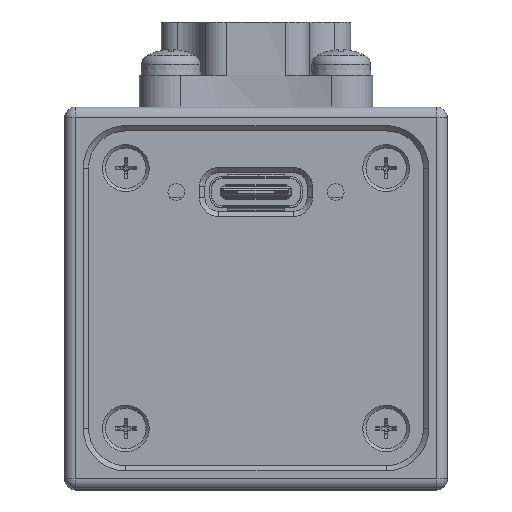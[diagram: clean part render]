
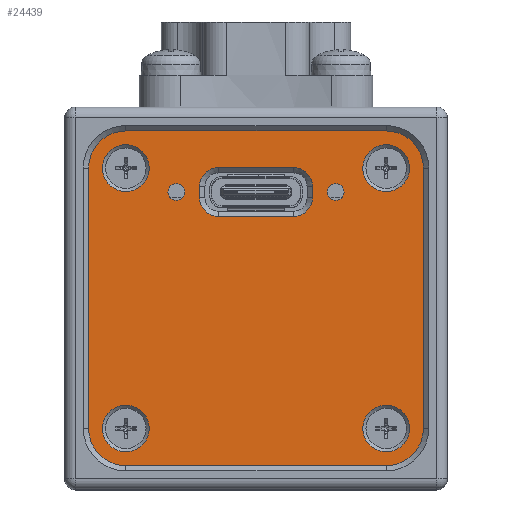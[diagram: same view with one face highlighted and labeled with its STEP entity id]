
A CAD part, top view. The second image highlights one B-rep face of the part: STEP entity #24439.
In plain terms, the highlighted planar face has unit normal (0, 0, 1).
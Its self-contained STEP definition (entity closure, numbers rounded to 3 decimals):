
#366=LINE('',#35747,#2871);
#371=LINE('',#35761,#2876);
#375=LINE('',#35773,#2880);
#379=LINE('',#35785,#2884);
#388=LINE('',#35811,#2893);
#389=LINE('',#35815,#2894);
#390=LINE('',#35819,#2895);
#391=LINE('',#35823,#2896);
#2871=VECTOR('',#28667,10.);
#2876=VECTOR('',#28680,10.);
#2880=VECTOR('',#28692,10.);
#2884=VECTOR('',#28704,10.);
#2893=VECTOR('',#28733,10.);
#2894=VECTOR('',#28736,10.);
#2895=VECTOR('',#28739,10.);
#2896=VECTOR('',#28742,10.);
#5710=FACE_BOUND('',#7418,.T.);
#5711=FACE_BOUND('',#7419,.T.);
#5712=FACE_BOUND('',#7420,.T.);
#5713=FACE_BOUND('',#7421,.T.);
#5714=FACE_BOUND('',#7422,.T.);
#5715=FACE_BOUND('',#7423,.T.);
#5716=FACE_BOUND('',#7424,.T.);
#6042=FACE_OUTER_BOUND('',#7417,.T.);
#7417=EDGE_LOOP('',(#15947,#15948,#15949,#15950,#15951,#15952,#15953,#15954));
#7418=EDGE_LOOP('',(#15955));
#7419=EDGE_LOOP('',(#15956));
#7420=EDGE_LOOP('',(#15957));
#7421=EDGE_LOOP('',(#15958));
#7422=EDGE_LOOP('',(#15959));
#7423=EDGE_LOOP('',(#15960));
#7424=EDGE_LOOP('',(#15961,#15962,#15963,#15964,#15965,#15966,#15967,#15968));
#8906=CIRCLE('',#26048,1.75);
#8908=CIRCLE('',#26052,1.75);
#8910=CIRCLE('',#26056,1.75);
#8912=CIRCLE('',#26060,1.75);
#8915=CIRCLE('',#26068,3.5);
#8916=CIRCLE('',#26069,3.5);
#8917=CIRCLE('',#26070,3.5);
#8918=CIRCLE('',#26071,3.5);
#8919=CIRCLE('',#26072,0.784);
#8920=CIRCLE('',#26073,0.784);
#8921=CIRCLE('',#26074,2.2);
#8922=CIRCLE('',#26075,2.2);
#8923=CIRCLE('',#26076,2.2);
#8924=CIRCLE('',#26077,2.2);
#9794=VERTEX_POINT('',#35744);
#9795=VERTEX_POINT('',#35746);
#9798=VERTEX_POINT('',#35754);
#9800=VERTEX_POINT('',#35759);
#9802=VERTEX_POINT('',#35766);
#9804=VERTEX_POINT('',#35771);
#9806=VERTEX_POINT('',#35778);
#9808=VERTEX_POINT('',#35783);
#9814=VERTEX_POINT('',#35809);
#9815=VERTEX_POINT('',#35810);
#9816=VERTEX_POINT('',#35812);
#9817=VERTEX_POINT('',#35814);
#9818=VERTEX_POINT('',#35816);
#9819=VERTEX_POINT('',#35818);
#9820=VERTEX_POINT('',#35820);
#9821=VERTEX_POINT('',#35822);
#9822=VERTEX_POINT('',#35825);
#9823=VERTEX_POINT('',#35827);
#9824=VERTEX_POINT('',#35829);
#9825=VERTEX_POINT('',#35831);
#9826=VERTEX_POINT('',#35833);
#9827=VERTEX_POINT('',#35835);
#12171=EDGE_CURVE('',#9794,#9795,#366,.T.);
#12176=EDGE_CURVE('',#9798,#9794,#8906,.T.);
#12178=EDGE_CURVE('',#9800,#9798,#371,.T.);
#12182=EDGE_CURVE('',#9802,#9800,#8908,.T.);
#12184=EDGE_CURVE('',#9804,#9802,#375,.T.);
#12188=EDGE_CURVE('',#9806,#9804,#8910,.T.);
#12190=EDGE_CURVE('',#9808,#9806,#379,.T.);
#12193=EDGE_CURVE('',#9795,#9808,#8912,.T.);
#12203=EDGE_CURVE('',#9814,#9815,#388,.T.);
#12204=EDGE_CURVE('',#9816,#9814,#8915,.T.);
#12205=EDGE_CURVE('',#9817,#9816,#389,.T.);
#12206=EDGE_CURVE('',#9818,#9817,#8916,.T.);
#12207=EDGE_CURVE('',#9819,#9818,#390,.T.);
#12208=EDGE_CURVE('',#9820,#9819,#8917,.T.);
#12209=EDGE_CURVE('',#9821,#9820,#391,.T.);
#12210=EDGE_CURVE('',#9815,#9821,#8918,.T.);
#12211=EDGE_CURVE('',#9822,#9822,#8919,.T.);
#12212=EDGE_CURVE('',#9823,#9823,#8920,.T.);
#12213=EDGE_CURVE('',#9824,#9824,#8921,.T.);
#12214=EDGE_CURVE('',#9825,#9825,#8922,.T.);
#12215=EDGE_CURVE('',#9826,#9826,#8923,.T.);
#12216=EDGE_CURVE('',#9827,#9827,#8924,.T.);
#15947=ORIENTED_EDGE('',*,*,#12203,.F.);
#15948=ORIENTED_EDGE('',*,*,#12204,.F.);
#15949=ORIENTED_EDGE('',*,*,#12205,.F.);
#15950=ORIENTED_EDGE('',*,*,#12206,.F.);
#15951=ORIENTED_EDGE('',*,*,#12207,.F.);
#15952=ORIENTED_EDGE('',*,*,#12208,.F.);
#15953=ORIENTED_EDGE('',*,*,#12209,.F.);
#15954=ORIENTED_EDGE('',*,*,#12210,.F.);
#15955=ORIENTED_EDGE('',*,*,#12211,.T.);
#15956=ORIENTED_EDGE('',*,*,#12212,.T.);
#15957=ORIENTED_EDGE('',*,*,#12213,.T.);
#15958=ORIENTED_EDGE('',*,*,#12214,.T.);
#15959=ORIENTED_EDGE('',*,*,#12215,.T.);
#15960=ORIENTED_EDGE('',*,*,#12216,.T.);
#15961=ORIENTED_EDGE('',*,*,#12171,.F.);
#15962=ORIENTED_EDGE('',*,*,#12176,.F.);
#15963=ORIENTED_EDGE('',*,*,#12178,.F.);
#15964=ORIENTED_EDGE('',*,*,#12182,.F.);
#15965=ORIENTED_EDGE('',*,*,#12184,.F.);
#15966=ORIENTED_EDGE('',*,*,#12188,.F.);
#15967=ORIENTED_EDGE('',*,*,#12190,.F.);
#15968=ORIENTED_EDGE('',*,*,#12193,.F.);
#22191=PLANE('',#26067);
#24439=ADVANCED_FACE('',(#6042,#5710,#5711,#5712,#5713,#5714,#5715,#5716),
#22191,.F.);
#26048=AXIS2_PLACEMENT_3D('',#35756,#28675,#28676);
#26052=AXIS2_PLACEMENT_3D('',#35768,#28687,#28688);
#26056=AXIS2_PLACEMENT_3D('',#35780,#28699,#28700);
#26060=AXIS2_PLACEMENT_3D('',#35789,#28710,#28711);
#26067=AXIS2_PLACEMENT_3D('',#35808,#28731,#28732);
#26068=AXIS2_PLACEMENT_3D('',#35813,#28734,#28735);
#26069=AXIS2_PLACEMENT_3D('',#35817,#28737,#28738);
#26070=AXIS2_PLACEMENT_3D('',#35821,#28740,#28741);
#26071=AXIS2_PLACEMENT_3D('',#35824,#28743,#28744);
#26072=AXIS2_PLACEMENT_3D('',#35826,#28745,#28746);
#26073=AXIS2_PLACEMENT_3D('',#35828,#28747,#28748);
#26074=AXIS2_PLACEMENT_3D('',#35830,#28749,#28750);
#26075=AXIS2_PLACEMENT_3D('',#35832,#28751,#28752);
#26076=AXIS2_PLACEMENT_3D('',#35834,#28753,#28754);
#26077=AXIS2_PLACEMENT_3D('',#35836,#28755,#28756);
#28667=DIRECTION('',(0.,1.,0.));
#28675=DIRECTION('center_axis',(0.,0.,
1.));
#28676=DIRECTION('ref_axis',(0.707,-0.707,0.));
#28680=DIRECTION('',(1.,0.,0.));
#28687=DIRECTION('center_axis',(0.,0.,
1.));
#28688=DIRECTION('ref_axis',(-0.707,-0.707,0.));
#28692=DIRECTION('',(0.,-1.,0.));
#28699=DIRECTION('center_axis',(0.,0.,
1.));
#28700=DIRECTION('ref_axis',(-0.707,0.707,0.));
#28704=DIRECTION('',(-1.,0.,0.));
#28710=DIRECTION('center_axis',(0.,0.,
1.));
#28711=DIRECTION('ref_axis',(0.707,0.707,0.));
#28731=DIRECTION('center_axis',(0.,0.,
-1.));
#28732=DIRECTION('ref_axis',(-1.,0.,0.));
#28733=DIRECTION('',(1.,0.,0.));
#28734=DIRECTION('center_axis',(0.,0.,
-1.));
#28735=DIRECTION('ref_axis',(0.,-1.,0.));
#28736=DIRECTION('',(0.,1.,0.));
#28737=DIRECTION('center_axis',(0.,0.,
-1.));
#28738=DIRECTION('ref_axis',(1.,0.,0.));
#28739=DIRECTION('',(-1.,0.,0.));
#28740=DIRECTION('center_axis',(0.,0.,
-1.));
#28741=DIRECTION('ref_axis',(0.,1.,0.));
#28742=DIRECTION('',(0.,-1.,0.));
#28743=DIRECTION('center_axis',(0.,0.,
-1.));
#28744=DIRECTION('ref_axis',(-1.,0.,0.));
#28745=DIRECTION('center_axis',(0.,0.,
-1.));
#28746=DIRECTION('ref_axis',(1.,0.,0.));
#28747=DIRECTION('center_axis',(0.,0.,
-1.));
#28748=DIRECTION('ref_axis',(1.,0.,0.));
#28749=DIRECTION('center_axis',(0.,0.,
-1.));
#28750=DIRECTION('ref_axis',(1.,0.,0.));
#28751=DIRECTION('center_axis',(0.,0.,
-1.));
#28752=DIRECTION('ref_axis',(1.,0.,0.));
#28753=DIRECTION('center_axis',(0.,0.,
-1.));
#28754=DIRECTION('ref_axis',(1.,0.,0.));
#28755=DIRECTION('center_axis',(0.,0.,
-1.));
#28756=DIRECTION('ref_axis',(1.,0.,0.));
#35744=CARTESIAN_POINT('',(5.3,9.45,22.1));
#35746=CARTESIAN_POINT('',(5.3,10.55,22.1));
#35747=CARTESIAN_POINT('',(5.3,5.9,22.1));
#35754=CARTESIAN_POINT('',(3.55,7.7,22.1));
#35756=CARTESIAN_POINT('Origin',(3.55,9.45,22.1));
#35759=CARTESIAN_POINT('',(-3.55,7.7,22.1));
#35761=CARTESIAN_POINT('',(2.4,7.7,22.1));
#35766=CARTESIAN_POINT('',(-5.3,9.45,22.1));
#35768=CARTESIAN_POINT('Origin',(-3.55,9.45,22.1));
#35771=CARTESIAN_POINT('',(-5.3,10.55,22.1));
#35773=CARTESIAN_POINT('',(-5.3,4.1,22.1));
#35778=CARTESIAN_POINT('',(-3.55,12.3,22.1));
#35780=CARTESIAN_POINT('Origin',(-3.55,10.55,22.1));
#35783=CARTESIAN_POINT('',(3.55,12.3,22.1));
#35785=CARTESIAN_POINT('',(-2.4,12.3,22.1));
#35789=CARTESIAN_POINT('Origin',(3.55,10.55,22.1));
#35808=CARTESIAN_POINT('Origin',(0.,0.,
22.1));
#35809=CARTESIAN_POINT('',(-12.25,15.75,22.1));
#35810=CARTESIAN_POINT('',(12.25,15.75,22.1));
#35811=CARTESIAN_POINT('',(-12.25,15.75,22.1));
#35812=CARTESIAN_POINT('',(-15.75,12.25,22.1));
#35813=CARTESIAN_POINT('Origin',(-12.25,12.25,22.1));
#35814=CARTESIAN_POINT('',(-15.75,-12.25,22.1));
#35815=CARTESIAN_POINT('',(-15.75,-12.25,22.1));
#35816=CARTESIAN_POINT('',(-12.25,-15.75,22.1));
#35817=CARTESIAN_POINT('Origin',(-12.25,-12.25,22.1));
#35818=CARTESIAN_POINT('',(12.25,-15.75,22.1));
#35819=CARTESIAN_POINT('',(12.25,-15.75,22.1));
#35820=CARTESIAN_POINT('',(15.75,-12.25,22.1));
#35821=CARTESIAN_POINT('Origin',(12.25,-12.25,22.1));
#35822=CARTESIAN_POINT('',(15.75,12.25,22.1));
#35823=CARTESIAN_POINT('',(15.75,12.25,22.1));
#35824=CARTESIAN_POINT('Origin',(12.25,12.25,22.1));
#35825=CARTESIAN_POINT('',(8.284,10.,22.1));
#35826=CARTESIAN_POINT('Origin',(7.5,10.,22.1));
#35827=CARTESIAN_POINT('',(-6.717,10.,22.1));
#35828=CARTESIAN_POINT('Origin',(-7.5,10.,22.1));
#35829=CARTESIAN_POINT('',(-10.05,-12.25,22.1));
#35830=CARTESIAN_POINT('Origin',(-12.25,-12.25,22.1));
#35831=CARTESIAN_POINT('',(14.45,12.25,22.1));
#35832=CARTESIAN_POINT('Origin',(12.25,12.25,22.1));
#35833=CARTESIAN_POINT('',(-10.05,12.25,22.1));
#35834=CARTESIAN_POINT('Origin',(-12.25,12.25,22.1));
#35835=CARTESIAN_POINT('',(14.45,-12.25,22.1));
#35836=CARTESIAN_POINT('Origin',(12.25,-12.25,22.1));
